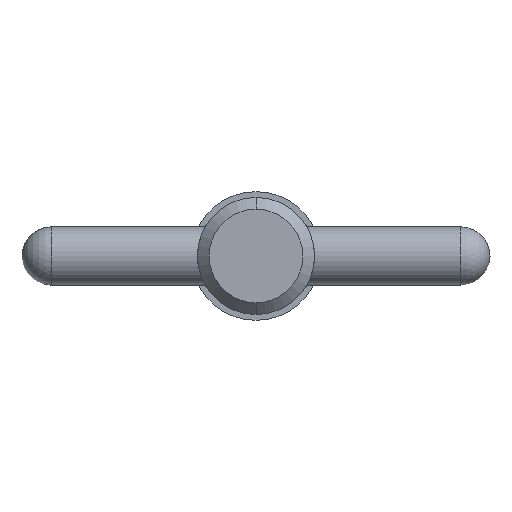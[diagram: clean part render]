
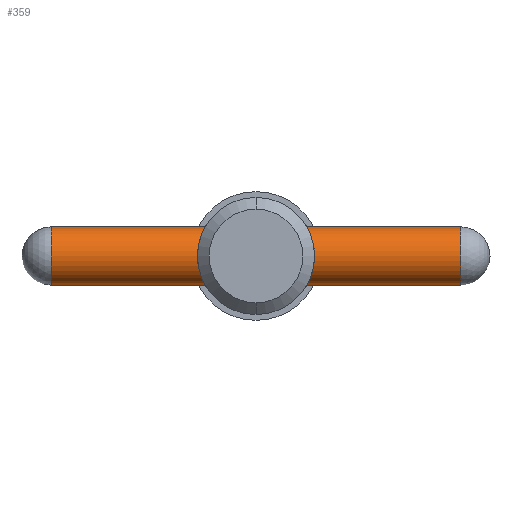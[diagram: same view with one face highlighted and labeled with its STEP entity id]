
A CAD part, left-side view. The second image highlights one B-rep face of the part: STEP entity #359.
In plain terms, the highlighted cylindrical face has radius 1.585 mm (diameter 3.17 mm), a partial arc.
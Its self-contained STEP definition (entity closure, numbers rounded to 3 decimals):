
#12 = EDGE_LOOP ( 'NONE', ( #881, #480, #398, #39 ) ) ;
#39 = ORIENTED_EDGE ( 'NONE', *, *, #265, .T. ) ;
#79 = DIRECTION ( 'NONE',  ( 0., -1., 0. ) ) ;
#101 = DIRECTION ( 'NONE',  ( 0., 0., -1. ) ) ;
#113 = CARTESIAN_POINT ( 'NONE',  ( 0., 11.115, 1.585 ) ) ;
#132 = FACE_OUTER_BOUND ( 'NONE', #12, .T. ) ;
#141 = CARTESIAN_POINT ( 'NONE',  ( 0., -11.115, -1.585 ) ) ;
#218 = AXIS2_PLACEMENT_3D ( 'NONE', #247, #253, #101 ) ;
#247 = CARTESIAN_POINT ( 'NONE',  ( 0., -11.115, 0. ) ) ;
#253 = DIRECTION ( 'NONE',  ( 0., 1., 0. ) ) ;
#258 = CARTESIAN_POINT ( 'NONE',  ( 0., 12.7, 1.585 ) ) ;
#265 = EDGE_CURVE ( 'NONE', #564, #500, #459, .T. ) ;
#314 = VERTEX_POINT ( 'NONE', #113 ) ;
#345 = CARTESIAN_POINT ( 'NONE',  ( 0., 12.7, 0. ) ) ;
#359 = ADVANCED_FACE ( 'NONE', ( #132 ), #580, .T. ) ;
#376 = DIRECTION ( 'NONE',  ( 0., -1., 0. ) ) ;
#386 = LINE ( 'NONE', #763, #509 ) ;
#398 = ORIENTED_EDGE ( 'NONE', *, *, #967, .T. ) ;
#459 = CIRCLE ( 'NONE', #218, 1.585 ) ;
#463 = AXIS2_PLACEMENT_3D ( 'NONE', #522, #376, #838 ) ;
#479 = AXIS2_PLACEMENT_3D ( 'NONE', #345, #664, #959 ) ;
#480 = ORIENTED_EDGE ( 'NONE', *, *, #988, .T. ) ;
#500 = VERTEX_POINT ( 'NONE', #694 ) ;
#509 = VECTOR ( 'NONE', #79, 1000. ) ;
#522 = CARTESIAN_POINT ( 'NONE',  ( 0., 11.115, 0. ) ) ;
#536 = VERTEX_POINT ( 'NONE', #993 ) ;
#564 = VERTEX_POINT ( 'NONE', #141 ) ;
#580 = CYLINDRICAL_SURFACE ( 'NONE', #479, 1.585 ) ;
#659 = VECTOR ( 'NONE', #999, 1000. ) ;
#664 = DIRECTION ( 'NONE',  ( 0., -1., 0. ) ) ;
#670 = EDGE_CURVE ( 'NONE', #314, #500, #690, .T. ) ;
#690 = LINE ( 'NONE', #258, #659 ) ;
#694 = CARTESIAN_POINT ( 'NONE',  ( 0., -11.115, 1.585 ) ) ;
#763 = CARTESIAN_POINT ( 'NONE',  ( 0., 12.7, -1.585 ) ) ;
#802 = CIRCLE ( 'NONE', #463, 1.585 ) ;
#838 = DIRECTION ( 'NONE',  ( 0., 0., -1. ) ) ;
#881 = ORIENTED_EDGE ( 'NONE', *, *, #670, .F. ) ;
#959 = DIRECTION ( 'NONE',  ( 0., 0., -1. ) ) ;
#967 = EDGE_CURVE ( 'NONE', #536, #564, #386, .T. ) ;
#988 = EDGE_CURVE ( 'NONE', #314, #536, #802, .T. ) ;
#993 = CARTESIAN_POINT ( 'NONE',  ( 0., 11.115, -1.585 ) ) ;
#999 = DIRECTION ( 'NONE',  ( 0., -1., 0. ) ) ;
